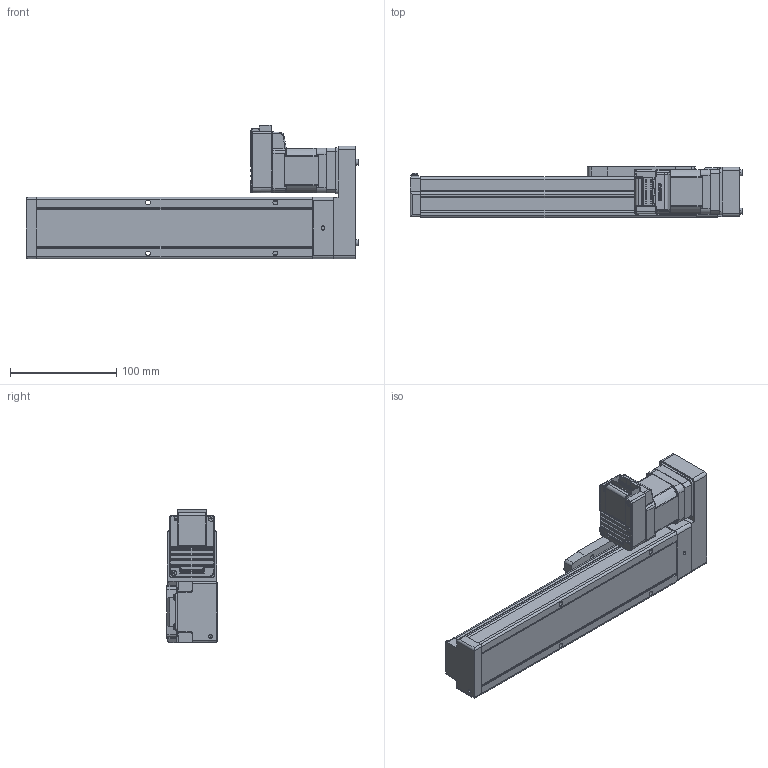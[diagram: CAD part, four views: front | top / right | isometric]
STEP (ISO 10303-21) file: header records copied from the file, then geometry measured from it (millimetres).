
FILE_DESCRIPTION (( 'STEP AP214' ), '1' );
FILE_NAME ('LEFS3(+)-25LNM1□-150-17L.STEP', '2023-05-31T05:09:14', ( '' ), ( '' ), 'SwSTEP 2.0', 'SolidWorks 2019', '' );
FILE_SCHEMA (( 'AUTOMOTIVE_DESIGN' ));
Length unit declared in the file: millimetre
Products named in the file (5): LEFS3(+)-25LNM1□-150-17L; LEFS3(+)-25NM1_TABLE; LEFS3(+)-25R(L)NM1仩_MOTOR Flange; CM3(+)-17L50A; LEFS3(+)-25R(L)NM1仩_BODY_150
Assembly tree (4 placements, depth 2):
  LEFS3(+)-25LNM1□-150-17L
    LEFS3(+)-25R(L)NM1仩_BODY_150
    LEFS3(+)-25NM1_TABLE
    LEFS3(+)-25R(L)NM1仩_MOTOR Flange
    CM3(+)-17L50A
Bounding box: 312.9 x 48 x 125.85 mm (x, y, z)
Volume: 838382.6 mm3; surface area: 122588.8 mm2
Topology: 5 solids, 5 shells, 1011 faces, 2596 edges, 1636 vertices
Faces by surface type: plane 529, cylinder 310, cone 83, torus 39, bspline 29, sphere 21
Entity records: 41365 total; most frequent: CARTESIAN_POINT 7434, ORIENTED_EDGE 5130, DIRECTION 4944, EDGE_CURVE 2565, AXIS2_PLACEMENT_3D 1658, VERTEX_POINT 1636, LINE 1628, VECTOR 1628
